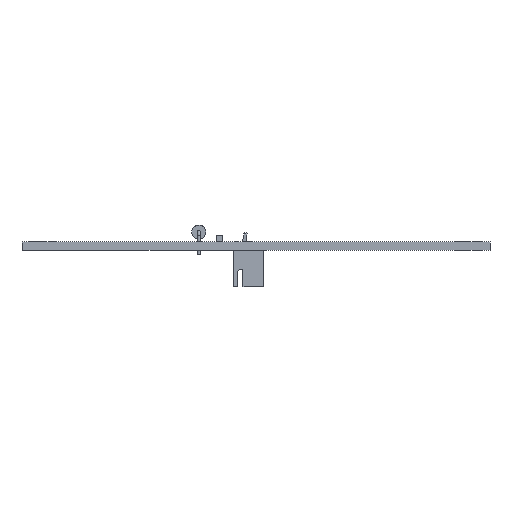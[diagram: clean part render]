
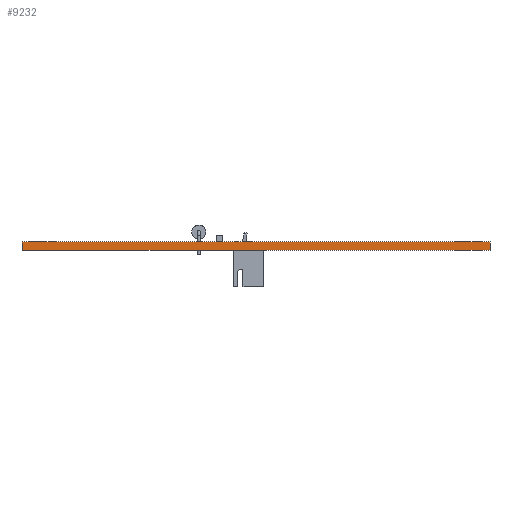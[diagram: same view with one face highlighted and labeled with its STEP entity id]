
A CAD part, left-side view. The second image highlights one B-rep face of the part: STEP entity #9232.
In plain terms, the highlighted planar face has unit normal (-1, 0, 0).
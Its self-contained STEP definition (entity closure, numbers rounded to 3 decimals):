
#9232 = ADVANCED_FACE('',(#9233),#9247,.F.);
#9233 = FACE_BOUND('',#9234,.F.);
#9234 = EDGE_LOOP('',(#9235,#9270,#9298,#9326));
#9235 = ORIENTED_EDGE('',*,*,#9236,.T.);
#9236 = EDGE_CURVE('',#9237,#9239,#9241,.T.);
#9237 = VERTEX_POINT('',#9238);
#9238 = CARTESIAN_POINT('',(-45.,45.,0.));
#9239 = VERTEX_POINT('',#9240);
#9240 = CARTESIAN_POINT('',(-45.,45.,1.6));
#9241 = SURFACE_CURVE('',#9242,(#9246,#9258),.PCURVE_S1.);
#9242 = LINE('',#9243,#9244);
#9243 = CARTESIAN_POINT('',(-45.,45.,0.));
#9244 = VECTOR('',#9245,1.);
#9245 = DIRECTION('',(0.,0.,1.));
#9246 = PCURVE('',#9247,#9252);
#9247 = PLANE('',#9248);
#9248 = AXIS2_PLACEMENT_3D('',#9249,#9250,#9251);
#9249 = CARTESIAN_POINT('',(-45.,45.,0.));
#9250 = DIRECTION('',(1.,0.,-0.));
#9251 = DIRECTION('',(0.,-1.,0.));
#9252 = DEFINITIONAL_REPRESENTATION('',(#9253),#9257);
#9253 = LINE('',#9254,#9255);
#9254 = CARTESIAN_POINT('',(0.,0.));
#9255 = VECTOR('',#9256,1.);
#9256 = DIRECTION('',(0.,-1.));
#9257 = ( GEOMETRIC_REPRESENTATION_CONTEXT(2) 
PARAMETRIC_REPRESENTATION_CONTEXT() REPRESENTATION_CONTEXT('2D SPACE',''
  ) );
#9258 = PCURVE('',#9259,#9264);
#9259 = PLANE('',#9260);
#9260 = AXIS2_PLACEMENT_3D('',#9261,#9262,#9263);
#9261 = CARTESIAN_POINT('',(45.,45.,0.));
#9262 = DIRECTION('',(0.,-1.,0.));
#9263 = DIRECTION('',(-1.,0.,0.));
#9264 = DEFINITIONAL_REPRESENTATION('',(#9265),#9269);
#9265 = LINE('',#9266,#9267);
#9266 = CARTESIAN_POINT('',(90.,0.));
#9267 = VECTOR('',#9268,1.);
#9268 = DIRECTION('',(0.,-1.));
#9269 = ( GEOMETRIC_REPRESENTATION_CONTEXT(2) 
PARAMETRIC_REPRESENTATION_CONTEXT() REPRESENTATION_CONTEXT('2D SPACE',''
  ) );
#9270 = ORIENTED_EDGE('',*,*,#9271,.T.);
#9271 = EDGE_CURVE('',#9239,#9272,#9274,.T.);
#9272 = VERTEX_POINT('',#9273);
#9273 = CARTESIAN_POINT('',(-45.,-45.,1.6));
#9274 = SURFACE_CURVE('',#9275,(#9279,#9286),.PCURVE_S1.);
#9275 = LINE('',#9276,#9277);
#9276 = CARTESIAN_POINT('',(-45.,45.,1.6));
#9277 = VECTOR('',#9278,1.);
#9278 = DIRECTION('',(0.,-1.,0.));
#9279 = PCURVE('',#9247,#9280);
#9280 = DEFINITIONAL_REPRESENTATION('',(#9281),#9285);
#9281 = LINE('',#9282,#9283);
#9282 = CARTESIAN_POINT('',(0.,-1.6));
#9283 = VECTOR('',#9284,1.);
#9284 = DIRECTION('',(1.,0.));
#9285 = ( GEOMETRIC_REPRESENTATION_CONTEXT(2) 
PARAMETRIC_REPRESENTATION_CONTEXT() REPRESENTATION_CONTEXT('2D SPACE',''
  ) );
#9286 = PCURVE('',#9287,#9292);
#9287 = PLANE('',#9288);
#9288 = AXIS2_PLACEMENT_3D('',#9289,#9290,#9291);
#9289 = CARTESIAN_POINT('',(0.,0.,1.6));
#9290 = DIRECTION('',(0.,0.,1.));
#9291 = DIRECTION('',(1.,0.,-0.));
#9292 = DEFINITIONAL_REPRESENTATION('',(#9293),#9297);
#9293 = LINE('',#9294,#9295);
#9294 = CARTESIAN_POINT('',(-45.,45.));
#9295 = VECTOR('',#9296,1.);
#9296 = DIRECTION('',(0.,-1.));
#9297 = ( GEOMETRIC_REPRESENTATION_CONTEXT(2) 
PARAMETRIC_REPRESENTATION_CONTEXT() REPRESENTATION_CONTEXT('2D SPACE',''
  ) );
#9298 = ORIENTED_EDGE('',*,*,#9299,.F.);
#9299 = EDGE_CURVE('',#9300,#9272,#9302,.T.);
#9300 = VERTEX_POINT('',#9301);
#9301 = CARTESIAN_POINT('',(-45.,-45.,0.));
#9302 = SURFACE_CURVE('',#9303,(#9307,#9314),.PCURVE_S1.);
#9303 = LINE('',#9304,#9305);
#9304 = CARTESIAN_POINT('',(-45.,-45.,0.));
#9305 = VECTOR('',#9306,1.);
#9306 = DIRECTION('',(0.,0.,1.));
#9307 = PCURVE('',#9247,#9308);
#9308 = DEFINITIONAL_REPRESENTATION('',(#9309),#9313);
#9309 = LINE('',#9310,#9311);
#9310 = CARTESIAN_POINT('',(90.,0.));
#9311 = VECTOR('',#9312,1.);
#9312 = DIRECTION('',(0.,-1.));
#9313 = ( GEOMETRIC_REPRESENTATION_CONTEXT(2) 
PARAMETRIC_REPRESENTATION_CONTEXT() REPRESENTATION_CONTEXT('2D SPACE',''
  ) );
#9314 = PCURVE('',#9315,#9320);
#9315 = PLANE('',#9316);
#9316 = AXIS2_PLACEMENT_3D('',#9317,#9318,#9319);
#9317 = CARTESIAN_POINT('',(-45.,-45.,0.));
#9318 = DIRECTION('',(0.,1.,0.));
#9319 = DIRECTION('',(1.,0.,0.));
#9320 = DEFINITIONAL_REPRESENTATION('',(#9321),#9325);
#9321 = LINE('',#9322,#9323);
#9322 = CARTESIAN_POINT('',(0.,0.));
#9323 = VECTOR('',#9324,1.);
#9324 = DIRECTION('',(0.,-1.));
#9325 = ( GEOMETRIC_REPRESENTATION_CONTEXT(2) 
PARAMETRIC_REPRESENTATION_CONTEXT() REPRESENTATION_CONTEXT('2D SPACE',''
  ) );
#9326 = ORIENTED_EDGE('',*,*,#9327,.F.);
#9327 = EDGE_CURVE('',#9237,#9300,#9328,.T.);
#9328 = SURFACE_CURVE('',#9329,(#9333,#9340),.PCURVE_S1.);
#9329 = LINE('',#9330,#9331);
#9330 = CARTESIAN_POINT('',(-45.,45.,0.));
#9331 = VECTOR('',#9332,1.);
#9332 = DIRECTION('',(0.,-1.,0.));
#9333 = PCURVE('',#9247,#9334);
#9334 = DEFINITIONAL_REPRESENTATION('',(#9335),#9339);
#9335 = LINE('',#9336,#9337);
#9336 = CARTESIAN_POINT('',(0.,0.));
#9337 = VECTOR('',#9338,1.);
#9338 = DIRECTION('',(1.,0.));
#9339 = ( GEOMETRIC_REPRESENTATION_CONTEXT(2) 
PARAMETRIC_REPRESENTATION_CONTEXT() REPRESENTATION_CONTEXT('2D SPACE',''
  ) );
#9340 = PCURVE('',#9341,#9346);
#9341 = PLANE('',#9342);
#9342 = AXIS2_PLACEMENT_3D('',#9343,#9344,#9345);
#9343 = CARTESIAN_POINT('',(0.,0.,0.));
#9344 = DIRECTION('',(0.,0.,1.));
#9345 = DIRECTION('',(1.,0.,-0.));
#9346 = DEFINITIONAL_REPRESENTATION('',(#9347),#9351);
#9347 = LINE('',#9348,#9349);
#9348 = CARTESIAN_POINT('',(-45.,45.));
#9349 = VECTOR('',#9350,1.);
#9350 = DIRECTION('',(0.,-1.));
#9351 = ( GEOMETRIC_REPRESENTATION_CONTEXT(2) 
PARAMETRIC_REPRESENTATION_CONTEXT() REPRESENTATION_CONTEXT('2D SPACE',''
  ) );
